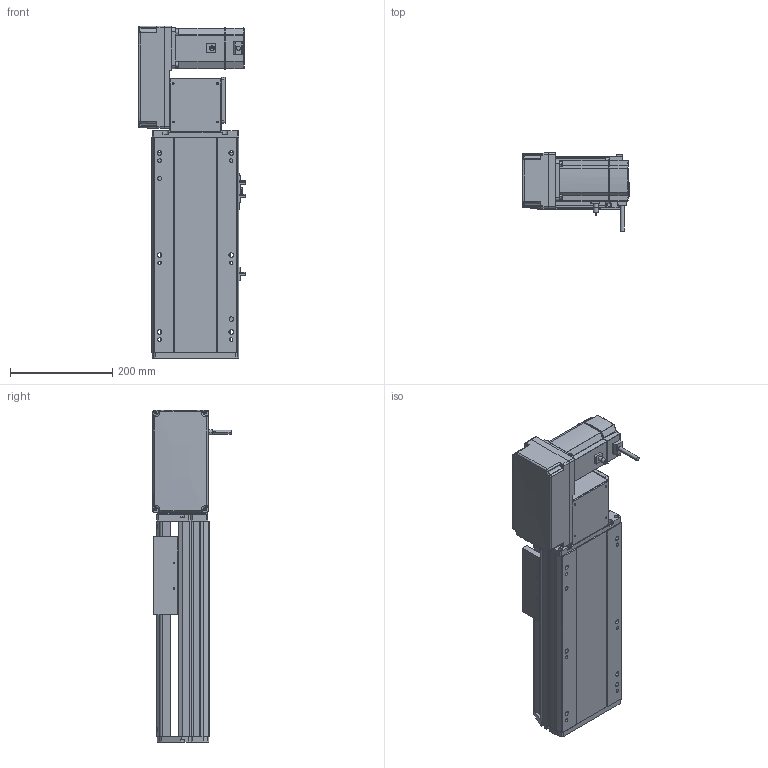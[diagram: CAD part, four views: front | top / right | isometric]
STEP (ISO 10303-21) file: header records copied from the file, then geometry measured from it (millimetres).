
FILE_DESCRIPTION (( 'STEP AP214' ), '1' );
FILE_NAME ('RTB17S-XX-150-L-M75-C4.STEP', '2025-12-12T00:06:02', ( '' ), ( '' ), 'SwSTEP 2.0', 'SolidWorks 2018', '' );
FILE_SCHEMA (( 'AUTOMOTIVE_DESIGN' ));
Length unit declared in the file: millimetre
Products named in the file (15): RMP17S-L-014-T20-P75--々湍釱^RTB17S-L-々湍釱蚾饜-750W_RTB17S-XX-XX-L-M75-C4; RTB17S-L-001-耜醱啣^RTB17S-XX-XX-L-M75-C4; RTB17S-L-々湍釱蚾饜-750W^RTB17S-XX-XX-L-M75-C4; EE672^RTB17S-XX-XX-L-M75-C4; RTB22S-GY-018P^RTB17S-L-々湍釱蚾饜-750W_RTB17S-XX-XX-L-M75-C4; RTB17S-賑釱^RTB17S-XX-XX-L-M75-C4; RTB17-R-011菁釱^RTB17S-XX-XX-L-M75-C4; RTB17S-L-004-賑釱^RTB17S-賑釱_RTB17S-XX-XX-L-M75-C4; RTB22S-GY-008-M75--萇儂啣^RTB17S-L-々湍釱蚾饜-750W_RTB17S-XX-XX-L-M75-C4; RTH13-BL-012覜茼え俋离^RTB17S-賑釱_RTB17S-XX-XX-L-M75-C4; RTB22S-GY-017P^RTB17S-L-々湍釱蚾饜-750W_RTB17S-XX-XX-L-M75-C4; 750W萇儂^RTB17S-XX-XX-L-M75-C4; RTB17S-L-007奻裔^RTB17S-XX-XX-L-M75-C4; RTB22S-GY-005P^RTB17S-L-々湍釱蚾饜-750W_RTB17S-XX-XX-L-M75-C4; RTB17S-XX-150-L-M75-C4
Assembly tree (17 placements, depth 3):
  RTB17S-XX-150-L-M75-C4
    RTB17-R-011菁釱^RTB17S-XX-XX-L-M75-C4
    EE672^RTB17S-XX-XX-L-M75-C4  x3
    RTB17S-L-001-耜醱啣^RTB17S-XX-XX-L-M75-C4
    RTB17S-賑釱^RTB17S-XX-XX-L-M75-C4
      RTB17S-L-004-賑釱^RTB17S-賑釱_RTB17S-XX-XX-L-M75-C4
      RTH13-BL-012覜茼え俋离^RTB17S-賑釱_RTB17S-XX-XX-L-M75-C4
    RTB17S-L-007奻裔^RTB17S-XX-XX-L-M75-C4
    750W萇儂^RTB17S-XX-XX-L-M75-C4
    RTB17S-L-々湍釱蚾饜-750W^RTB17S-XX-XX-L-M75-C4
      RMP17S-L-014-T20-P75--々湍釱^RTB17S-L-々湍釱蚾饜-750W_RTB17S-XX-XX-L-M75-C4
      RTB22S-GY-005P^RTB17S-L-々湍釱蚾饜-750W_RTB17S-XX-XX-L-M75-C4
      RTB22S-GY-017P^RTB17S-L-々湍釱蚾饜-750W_RTB17S-XX-XX-L-M75-C4  x2
      RTB22S-GY-008-M75--萇儂啣^RTB17S-L-々湍釱蚾饜-750W_RTB17S-XX-XX-L-M75-C4
      RTB22S-GY-018P^RTB17S-L-々湍釱蚾饜-750W_RTB17S-XX-XX-L-M75-C4
Bounding box: 210.4 x 152.7 x 649 mm (x, y, z)
Volume: 6887654.1 mm3; surface area: 1026839.2 mm2
Topology: 17 solids, 17 shells, 2025 faces, 5566 edges, 3590 vertices
Faces by surface type: plane 962, cylinder 647, bspline 294, cone 110, sphere 8, torus 4
Entity records: 55030 total; most frequent: CARTESIAN_POINT 16030, ORIENTED_EDGE 7976, DIRECTION 7502, EDGE_CURVE 3988, AXIS2_PLACEMENT_3D 2610, VERTEX_POINT 2594, VECTOR 2282, LINE 2282
